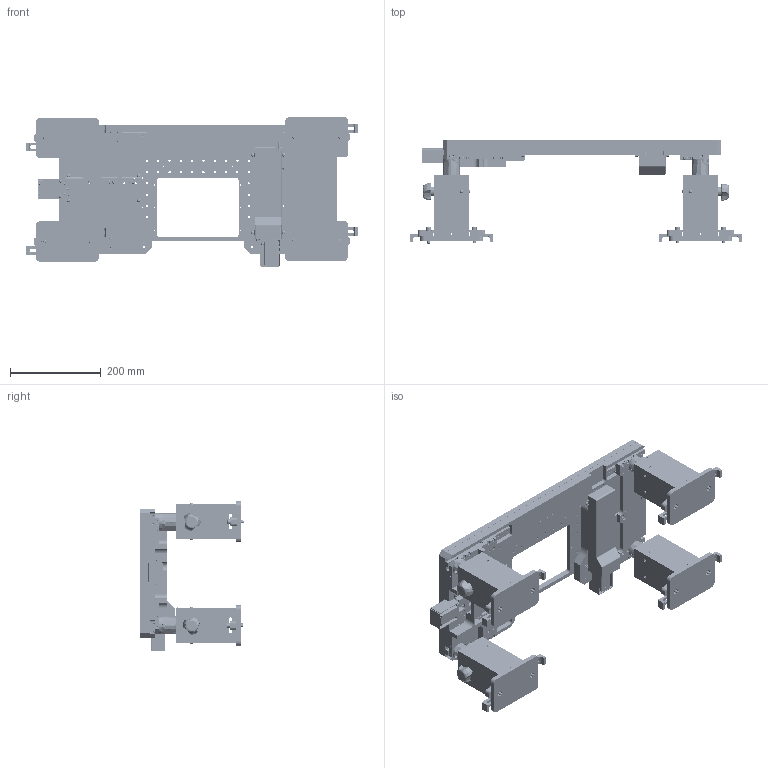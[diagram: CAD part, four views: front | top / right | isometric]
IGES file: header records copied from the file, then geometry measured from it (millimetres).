
Start section: SolidWorks IGES file using analytic representation for surfaces
Global section: file name: C:\1-DATA-FILES-FOR-PROJECTS\2022-PRODUCT-REFERENCE-MODELS\1-STAGE-REFERENCE-MODELS\ZDZ12MP\2-ZDZ12MP-REFERENCE-PARTS\ZDZ12MP-REFERENCE-PART-IGES.IGS; native system: SolidWorks 2019; preprocessor: SolidWorks 2019; author: jwilliams; date: 220322.114632; units: inch
Bounding box: 733.3 x 228.38 x 330.85 mm (x, y, z)
Surface area: 1755130.8 mm2 (no closed solid volume)
Topology: 0 solids, 0 shells, 9613 faces, 122708 edges, 122364 vertices
Faces by surface type: bspline 5080, revolution 4533
